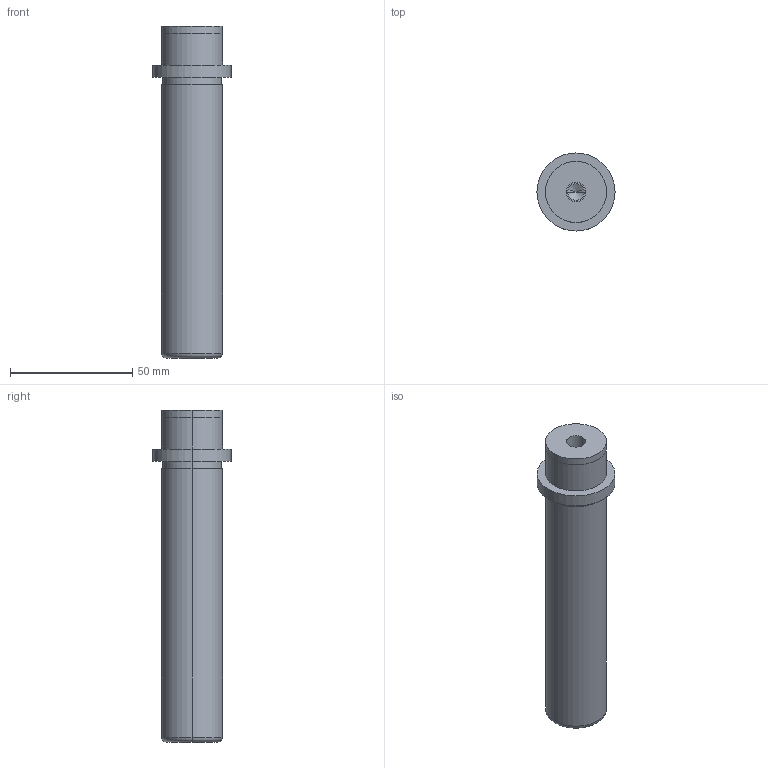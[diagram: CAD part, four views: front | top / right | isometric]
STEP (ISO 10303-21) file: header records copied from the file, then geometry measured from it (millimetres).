
FILE_DESCRIPTION(/* description */ (''),/* implementation_level */ '2;1');
FILE_NAME(/* name */ '3d_sgpw25-120_05267_r00.stp',/* time_stamp */ '2011-01-10T14:11:03+09:00',/* author */ ('MISUMI'),/* organization */ (''),/* preprocessor_version */ 'ST-DEVELOPER v11',/* originating_system */ 'UGS - NX 5.0',/* authorisation */ '');
FILE_SCHEMA (('CONFIG_CONTROL_DESIGN'));
Length unit declared in the file: millimetre
Products named in the file (1): 3d_sgpw25-120_05267_r00
Bounding box: 32 x 32 x 136 mm (x, y, z)
Volume: 66142.9 mm3; surface area: 13399.7 mm2
Topology: 1 solids, 1 shells, 31 faces, 64 edges, 38 vertices
Faces by surface type: cylinder 18, plane 7, cone 4, torus 2
Entity records: 890 total; most frequent: DIRECTION 162, CARTESIAN_POINT 130, ORIENTED_EDGE 120, AXIS2_PLACEMENT_3D 70, EDGE_CURVE 60, EDGE_LOOP 38, CIRCLE 38, VERTEX_POINT 38
